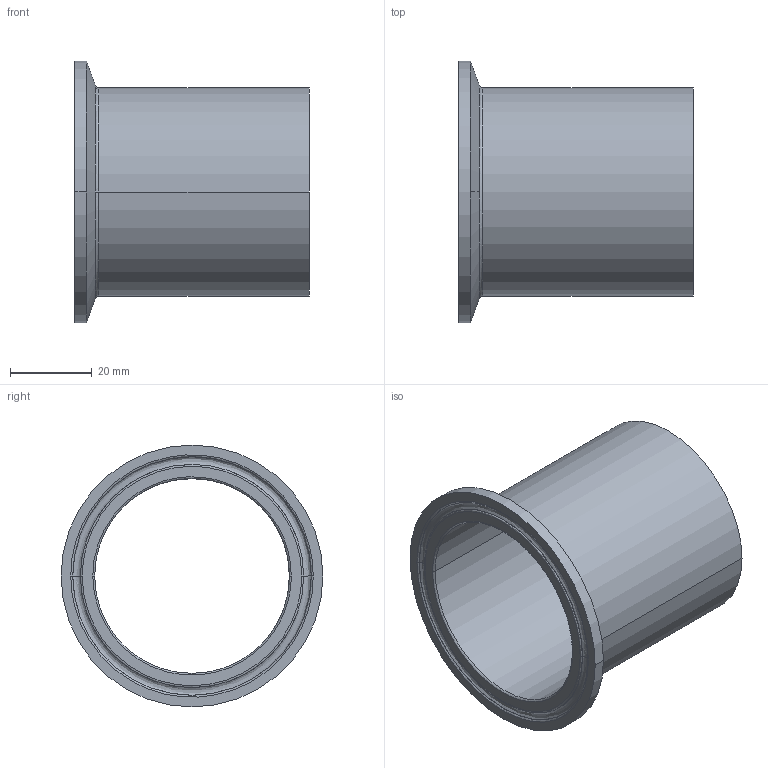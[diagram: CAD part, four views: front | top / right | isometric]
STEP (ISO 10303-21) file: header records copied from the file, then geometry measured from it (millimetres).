
FILE_DESCRIPTION (( 'STEP AP214' ), '1' );
FILE_NAME ('TEG14AM76L2.0.STEP', '2016-05-23T03:54:21', ( 'eran' ), ( '' ), 'SwSTEP 2.0', 'SolidWorks 2016', '' );
FILE_SCHEMA (( 'AUTOMOTIVE_DESIGN' ));
Length unit declared in the file: millimetre
Products named in the file (1): TEG14AM76L2.0
Bounding box: 57.2 x 63.91 x 63.91 mm (x, y, z)
Volume: 19073 mm3; surface area: 20395.3 mm2
Topology: 1 solids, 1 shells, 25 faces, 62 edges, 40 vertices
Faces by surface type: bspline 10, cylinder 6, cone 6, plane 3
Entity records: 1463 total; most frequent: CARTESIAN_POINT 838, DIRECTION 132, ORIENTED_EDGE 124, EDGE_CURVE 62, AXIS2_PLACEMENT_3D 60, CIRCLE 44, VERTEX_POINT 40, EDGE_LOOP 28
